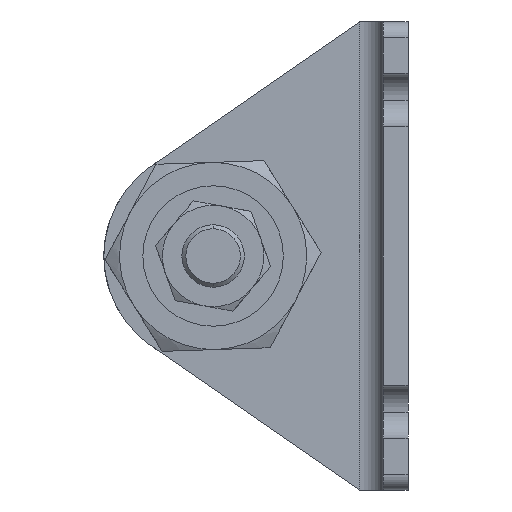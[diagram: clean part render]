
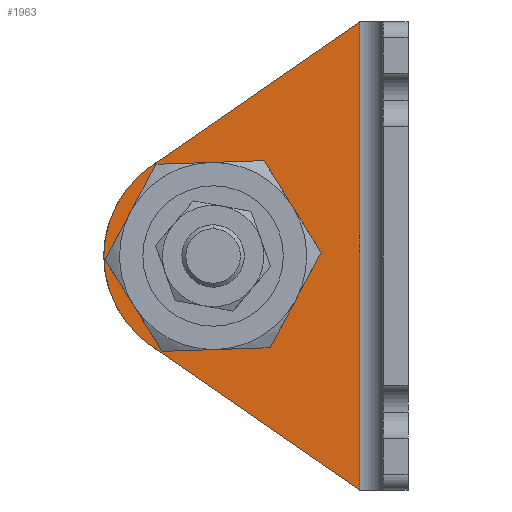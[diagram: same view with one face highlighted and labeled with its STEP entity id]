
A CAD part, left-side view. The second image highlights one B-rep face of the part: STEP entity #1963.
In plain terms, the highlighted planar face has unit normal (-1, 0, 0) as drawn and (1, 0, 0) by its records, which use the part's own axes.
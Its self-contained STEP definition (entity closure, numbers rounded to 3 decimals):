
#18 = CARTESIAN_POINT ( 'NONE',  ( 3.2, 15.5, -30. ) ) ;
#25 = CIRCLE ( 'NONE', #1528, 14. ) ;
#68 = LINE ( 'NONE', #3338, #1924 ) ;
#85 = EDGE_CURVE ( 'NONE', #2600, #2447, #25, .T. ) ;
#123 = DIRECTION ( 'NONE',  ( 1., 0., 0. ) ) ;
#131 = DIRECTION ( 'NONE',  ( 0., 1., 0. ) ) ;
#143 = EDGE_CURVE ( 'NONE', #905, #1592, #3127, .T. ) ;
#248 = EDGE_CURVE ( 'NONE', #937, #1728, #68, .T. ) ;
#320 = ORIENTED_EDGE ( 'NONE', *, *, #2765, .T. ) ;
#665 = CARTESIAN_POINT ( 'NONE',  ( 3.2, 6.2, 0. ) ) ;
#785 = AXIS2_PLACEMENT_3D ( 'NONE', #1059, #2543, #131 ) ;
#877 = CIRCLE ( 'NONE', #958, 9.5 ) ;
#905 = VERTEX_POINT ( 'NONE', #1020 ) ;
#937 = VERTEX_POINT ( 'NONE', #665 ) ;
#958 = AXIS2_PLACEMENT_3D ( 'NONE', #2885, #1117, #2298 ) ;
#961 = CARTESIAN_POINT ( 'NONE',  ( 3.2, 32.956, -18.481 ) ) ;
#1020 = CARTESIAN_POINT ( 'NONE',  ( 3.2, 34.5, -30. ) ) ;
#1022 = FACE_BOUND ( 'NONE', #3077, .T. ) ;
#1059 = CARTESIAN_POINT ( 'NONE',  ( 3.2, 25., -30. ) ) ;
#1117 = DIRECTION ( 'NONE',  ( 1., 0., 0. ) ) ;
#1143 = ORIENTED_EDGE ( 'NONE', *, *, #3317, .F. ) ;
#1390 = DIRECTION ( 'NONE',  ( 0., 0.823, 0.568 ) ) ;
#1416 = CARTESIAN_POINT ( 'NONE',  ( 3.2, 32.956, -41.519 ) ) ;
#1528 = AXIS2_PLACEMENT_3D ( 'NONE', #2488, #2198, #2214 ) ;
#1592 = VERTEX_POINT ( 'NONE', #18 ) ;
#1647 = VERTEX_POINT ( 'NONE', #2152 ) ;
#1675 = DIRECTION ( 'NONE',  ( 1., 0., 0. ) ) ;
#1728 = VERTEX_POINT ( 'NONE', #961 ) ;
#1831 = ORIENTED_EDGE ( 'NONE', *, *, #2779, .T. ) ;
#1875 = ORIENTED_EDGE ( 'NONE', *, *, #2733, .T. ) ;
#1924 = VECTOR ( 'NONE', #2462, 1000. ) ;
#1952 = CARTESIAN_POINT ( 'NONE',  ( 3.2, 4.169, -61.403 ) ) ;
#1963 = ADVANCED_FACE ( 'NONE', ( #1022, #3246 ), #3430, .T. ) ;
#2140 = VECTOR ( 'NONE', #1390, 1000. ) ;
#2152 = CARTESIAN_POINT ( 'NONE',  ( 3.2, 6.2, -60. ) ) ;
#2198 = DIRECTION ( 'NONE',  ( 1., 0., 0. ) ) ;
#2214 = DIRECTION ( 'NONE',  ( 0., 1., 0. ) ) ;
#2234 = CARTESIAN_POINT ( 'NONE',  ( 3.2, 25., -30. ) ) ;
#2237 = CIRCLE ( 'NONE', #3819, 14. ) ;
#2250 = EDGE_LOOP ( 'NONE', ( #1875, #2590, #320, #2929, #1831 ) ) ;
#2298 = DIRECTION ( 'NONE',  ( 0., 1., 0. ) ) ;
#2332 = LINE ( 'NONE', #1952, #2140 ) ;
#2348 = AXIS2_PLACEMENT_3D ( 'NONE', #3737, #123, #3137 ) ;
#2447 = VERTEX_POINT ( 'NONE', #3056 ) ;
#2462 = DIRECTION ( 'NONE',  ( 0., 0.823, -0.568 ) ) ;
#2488 = CARTESIAN_POINT ( 'NONE',  ( 3.2, 25., -30. ) ) ;
#2543 = DIRECTION ( 'NONE',  ( 1., 0., 0. ) ) ;
#2551 = CARTESIAN_POINT ( 'NONE',  ( 3.2, 6.2, -60. ) ) ;
#2590 = ORIENTED_EDGE ( 'NONE', *, *, #85, .T. ) ;
#2600 = VERTEX_POINT ( 'NONE', #1416 ) ;
#2733 = EDGE_CURVE ( 'NONE', #1647, #2600, #2332, .T. ) ;
#2765 = EDGE_CURVE ( 'NONE', #2447, #1728, #2237, .T. ) ;
#2779 = EDGE_CURVE ( 'NONE', #937, #1647, #3484, .T. ) ;
#2885 = CARTESIAN_POINT ( 'NONE',  ( 3.2, 25., -30. ) ) ;
#2929 = ORIENTED_EDGE ( 'NONE', *, *, #248, .F. ) ;
#3056 = CARTESIAN_POINT ( 'NONE',  ( 3.2, 39., -30. ) ) ;
#3077 = EDGE_LOOP ( 'NONE', ( #3187, #1143 ) ) ;
#3127 = CIRCLE ( 'NONE', #785, 9.5 ) ;
#3137 = DIRECTION ( 'NONE',  ( 0., 1., 0. ) ) ;
#3187 = ORIENTED_EDGE ( 'NONE', *, *, #143, .F. ) ;
#3246 = FACE_OUTER_BOUND ( 'NONE', #2250, .T. ) ;
#3317 = EDGE_CURVE ( 'NONE', #1592, #905, #877, .T. ) ;
#3338 = CARTESIAN_POINT ( 'NONE',  ( 3.2, 32.226, -17.976 ) ) ;
#3430 = PLANE ( 'NONE',  #2348 ) ;
#3432 = DIRECTION ( 'NONE',  ( 0., 1., 0. ) ) ;
#3444 = DIRECTION ( 'NONE',  ( 0., 0., -1. ) ) ;
#3484 = LINE ( 'NONE', #2551, #3524 ) ;
#3524 = VECTOR ( 'NONE', #3444, 1000. ) ;
#3737 = CARTESIAN_POINT ( 'NONE',  ( 3.2, 3.2, -60. ) ) ;
#3819 = AXIS2_PLACEMENT_3D ( 'NONE', #2234, #1675, #3432 ) ;
